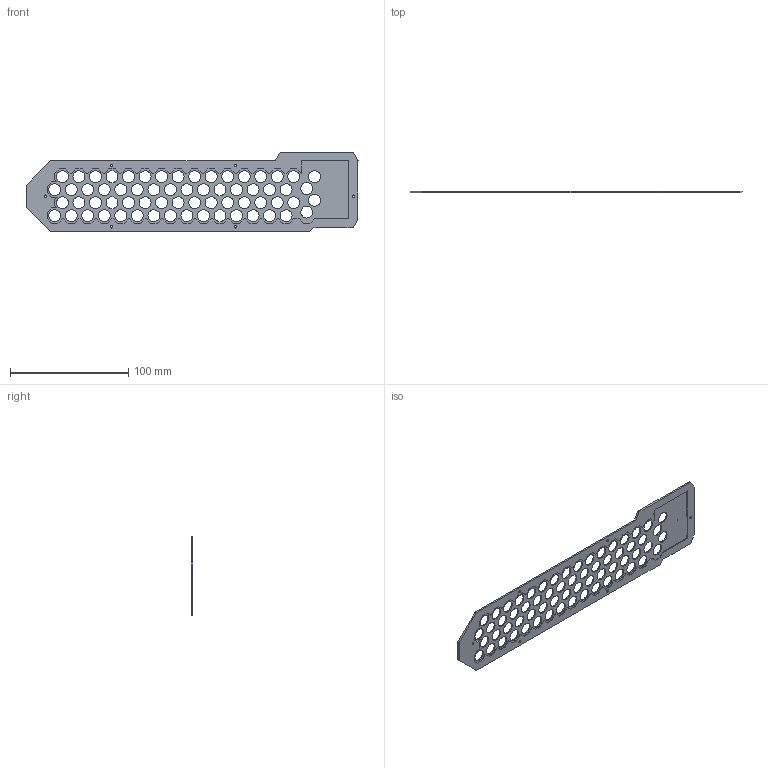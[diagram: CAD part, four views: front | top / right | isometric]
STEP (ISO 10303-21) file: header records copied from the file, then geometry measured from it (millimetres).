
FILE_DESCRIPTION(/* description */ ('STEP AP242','CAx-IF Rec.Pracs.---Representation and Presentation of Product Manufacturing Information (PMI)---4.0---2014-10-13','CAx-IF Rec.Pracs.---3D Tessellated Geometry---0.4---2014-09-14','2;1'),/* implementation_level */ '2;1');
FILE_NAME(/* name */ '65b7cb94d6a5f9253210baa0',/* time_stamp */ '2024-01-29T16:00:21Z',/* author */ (''),/* organization */ (''),/* preprocessor_version */ 'ST-DEVELOPER v19.4',/* originating_system */ ' ',/* authorisation */ ' ');
FILE_SCHEMA (('AP242_MANAGED_MODEL_BASED_3D_ENGINEERING_MIM_LF { 1 0 10303 442 1 1 4 }'));
Length unit declared in the file: metre
Products named in the file (1): Part 30
Bounding box: 281.25 x 1.5 x 67.05 mm (x, y, z)
Volume: 14408.8 mm3; surface area: 26697.5 mm2
Topology: 1 solids, 1 shells, 227 faces, 693 edges, 470 vertices
Faces by surface type: plane 156, cylinder 71
Full cylindrical faces by diameter (mm): 1.3 x1, 2 x6, 10.1 x64
Entity records: 7605 total; most frequent: CARTESIAN_POINT 1344, ORIENTED_EDGE 1216, DIRECTION 1191, EDGE_CURVE 608, VERTEX_POINT 456, LINE 453, VECTOR 453, EDGE_LOOP 440
